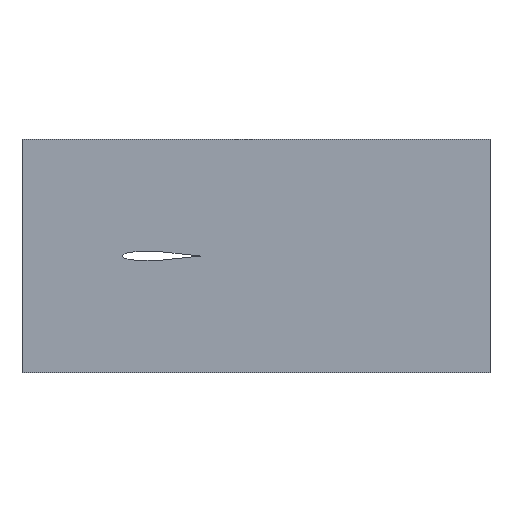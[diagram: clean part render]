
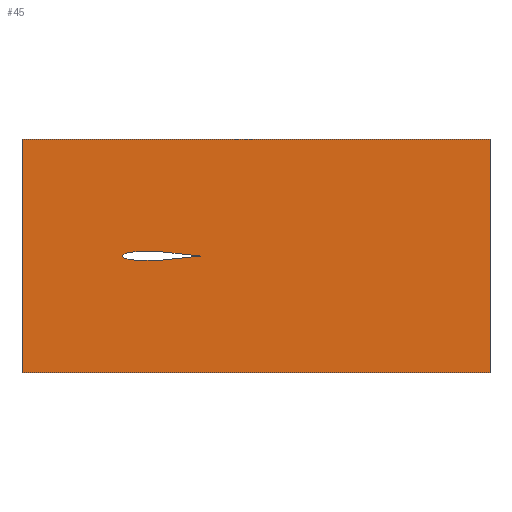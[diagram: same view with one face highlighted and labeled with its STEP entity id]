
A CAD part, top view. The second image highlights one B-rep face of the part: STEP entity #45.
In plain terms, the highlighted planar face has unit normal (0, 0, 1).
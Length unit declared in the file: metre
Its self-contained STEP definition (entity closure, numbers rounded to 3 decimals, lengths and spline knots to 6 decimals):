
#12=LINE('',#160,#16);
#13=LINE('',#163,#17);
#14=LINE('',#165,#18);
#15=LINE('',#167,#19);
#16=VECTOR('',#64,1.);
#17=VECTOR('',#65,1.);
#18=VECTOR('',#66,1.);
#19=VECTOR('',#67,1.);
#20=ORIENTED_EDGE('',*,*,#26,.F.);
#21=ORIENTED_EDGE('',*,*,#27,.F.);
#22=ORIENTED_EDGE('',*,*,#28,.F.);
#23=ORIENTED_EDGE('',*,*,#29,.T.);
#24=ORIENTED_EDGE('',*,*,#30,.T.);
#25=ORIENTED_EDGE('',*,*,#31,.F.);
#26=EDGE_CURVE('',#32,#33,#38,.T.);
#27=EDGE_CURVE('',#33,#32,#39,.T.);
#28=EDGE_CURVE('',#34,#35,#12,.F.);
#29=EDGE_CURVE('',#34,#36,#13,.T.);
#30=EDGE_CURVE('',#36,#37,#14,.T.);
#31=EDGE_CURVE('',#35,#37,#15,.F.);
#32=VERTEX_POINT('',#114);
#33=VERTEX_POINT('',#115);
#34=VERTEX_POINT('',#161);
#35=VERTEX_POINT('',#162);
#36=VERTEX_POINT('',#164);
#37=VERTEX_POINT('',#166);
#38=B_SPLINE_CURVE_WITH_KNOTS('',3,(#70,#71,#72,#73,#74,#75,#76,#77,#78,
#79,#80,#81,#82,#83,#84,#85,#86,#87,#88,#89,#90,#91,#92,#93,#94,#95,#96,
#97,#98,#99,#100,#101,#102,#103,#104,#105,#106,#107,#108,#109,#110,#111,
#112,#113),.UNSPECIFIED.,.F.,.F.,(4,1,1,1,1,1,1,1,1,1,1,1,1,1,1,1,1,1,1,
1,1,1,1,1,1,1,1,1,1,1,1,1,1,1,1,1,1,1,1,1,1,4),(0.,0.001624,
0.003249,0.004873,0.006498,0.009746,
0.012995,0.016244,0.019493,0.02599,
0.032488,0.038985,0.045483,0.05198,
0.058478,0.064975,0.071473,0.07797,
0.081219,0.084468,0.087716,0.090965,
0.092589,0.094214,0.095838,0.097463,
0.099087,0.099899,0.100711,0.101523,
0.10193,0.102336,0.102742,0.103148,
0.103351,0.103554,0.103655,0.103757,
0.103859,0.103909,0.103935,0.10396),
 .UNSPECIFIED.);
#39=B_SPLINE_CURVE_WITH_KNOTS('',3,(#116,#117,#118,#119,#120,#121,#122,
#123,#124,#125,#126,#127,#128,#129,#130,#131,#132,#133,#134,#135,#136,#137,
#138,#139,#140,#141,#142,#143,#144,#145,#146,#147,#148,#149,#150,#151,#152,
#153,#154,#155,#156,#157,#158,#159),.UNSPECIFIED.,.F.,.F.,(4,1,1,1,1,1,
1,1,1,1,1,1,1,1,1,1,1,1,1,1,1,1,1,1,1,1,1,1,1,1,1,1,1,1,1,1,1,1,1,1,1,4),
(0.,0.000025,0.00005,0.000101,0.000201,
0.000302,0.000403,0.000604,0.000805,
0.001208,0.00161,0.002013,0.002415,
0.003221,0.004026,0.004831,0.006441,
0.008052,0.009662,0.011272,0.012883,
0.016103,0.019324,0.022544,0.025765,
0.032206,0.038648,0.045089,0.05153,
0.057971,0.064413,0.070854,0.077295,
0.083736,0.086957,0.090178,0.093398,
0.096619,0.098229,0.099839,0.10145,
0.10306),.UNSPECIFIED.);
#40=EDGE_LOOP('',(#20,#21));
#41=EDGE_LOOP('',(#22,#23,#24,#25));
#42=FACE_BOUND('',#40,.T.);
#43=FACE_BOUND('',#41,.T.);
#44=PLANE('',#59);
#45=ADVANCED_FACE('',(#42,#43),#44,.T.);
#59=AXIS2_PLACEMENT_3D('',#69,#62,#63);
#62=DIRECTION('',(0.,0.,1.));
#63=DIRECTION('',(1.,0.,0.));
#64=DIRECTION('',(-1.,0.,0.));
#65=DIRECTION('',(0.,-1.,0.));
#66=DIRECTION('',(1.,0.,0.));
#67=DIRECTION('',(0.,1.,0.));
#69=CARTESIAN_POINT('',(0.125,0.,0.005));
#70=CARTESIAN_POINT('',(-0.046066,0.,0.005));
#71=CARTESIAN_POINT('',(-0.046066,-0.000549,0.005));
#72=CARTESIAN_POINT('',(-0.045451,-0.001525,0.005));
#73=CARTESIAN_POINT('',(-0.044077,-0.002398,0.005));
#74=CARTESIAN_POINT('',(-0.042617,-0.003051,0.005));
#75=CARTESIAN_POINT('',(-0.040574,-0.003737,0.005));
#76=CARTESIAN_POINT('',(-0.037989,-0.004359,0.005));
#77=CARTESIAN_POINT('',(-0.034848,-0.004901,0.005));
#78=CARTESIAN_POINT('',(-0.031684,-0.005298,0.005));
#79=CARTESIAN_POINT('',(-0.027437,-0.005685,0.005));
#80=CARTESIAN_POINT('',(-0.022122,-0.005951,0.005));
#81=CARTESIAN_POINT('',(-0.01576,-0.00603,0.005));
#82=CARTESIAN_POINT('',(-0.009402,-0.005931,0.005));
#83=CARTESIAN_POINT('',(-0.00305,-0.005692,0.005));
#84=CARTESIAN_POINT('',(0.003297,-0.005341,0.005));
#85=CARTESIAN_POINT('',(0.009641,-0.004901,0.005));
#86=CARTESIAN_POINT('',(0.015983,-0.004384,0.005));
#87=CARTESIAN_POINT('',(0.022322,-0.003801,0.005));
#88=CARTESIAN_POINT('',(0.027602,-0.003266,0.005));
#89=CARTESIAN_POINT('',(0.031823,-0.00281,0.005));
#90=CARTESIAN_POINT('',(0.034988,-0.002454,0.005));
#91=CARTESIAN_POINT('',(0.03815,-0.002083,0.005));
#92=CARTESIAN_POINT('',(0.040784,-0.001763,0.005));
#93=CARTESIAN_POINT('',(0.042891,-0.001499,0.005));
#94=CARTESIAN_POINT('',(0.04447,-0.001297,0.005));
#95=CARTESIAN_POINT('',(0.046049,-0.001091,0.005));
#96=CARTESIAN_POINT('',(0.047627,-0.000881,0.005));
#97=CARTESIAN_POINT('',(0.048942,-0.000703,0.005));
#98=CARTESIAN_POINT('',(0.049994,-0.000559,0.005));
#99=CARTESIAN_POINT('',(0.050782,-0.000449,0.005));
#100=CARTESIAN_POINT('',(0.051439,-0.000357,0.005));
#101=CARTESIAN_POINT('',(0.051965,-0.000283,0.005));
#102=CARTESIAN_POINT('',(0.052359,-0.000227,0.005));
#103=CARTESIAN_POINT('',(0.052753,-0.00017,0.005));
#104=CARTESIAN_POINT('',(0.053081,-0.000124,0.005));
#105=CARTESIAN_POINT('',(0.053344,-0.000086,0.005));
#106=CARTESIAN_POINT('',(0.053508,-0.000061,0.005));
#107=CARTESIAN_POINT('',(0.053639,-0.000041,0.005));
#108=CARTESIAN_POINT('',(0.053738,-0.000028,0.005));
#109=CARTESIAN_POINT('',(0.053818,-0.000015,0.005));
#110=CARTESIAN_POINT('',(0.053879,-0.00001,0.005));
#111=CARTESIAN_POINT('',(0.053907,-0.000002,0.005));
#112=CARTESIAN_POINT('',(0.053934,-0.000008,0.005));
#113=CARTESIAN_POINT('',(0.053934,0.,0.005));
#114=CARTESIAN_POINT('',(-0.046066,0.,0.005));
#115=CARTESIAN_POINT('',(0.053934,0.,0.005));
#116=CARTESIAN_POINT('',(0.053934,0.,0.005));
#117=CARTESIAN_POINT('',(0.053934,0.000009,0.005));
#118=CARTESIAN_POINT('',(0.053907,0.000002,0.005));
#119=CARTESIAN_POINT('',(0.053879,0.00001,0.005));
#120=CARTESIAN_POINT('',(0.053818,0.000015,0.005));
#121=CARTESIAN_POINT('',(0.053738,0.000028,0.005));
#122=CARTESIAN_POINT('',(0.053639,0.000041,0.005));
#123=CARTESIAN_POINT('',(0.053507,0.000061,0.005));
#124=CARTESIAN_POINT('',(0.053343,0.000086,0.005));
#125=CARTESIAN_POINT('',(0.05308,0.000124,0.005));
#126=CARTESIAN_POINT('',(0.052752,0.00017,0.005));
#127=CARTESIAN_POINT('',(0.052357,0.000227,0.005));
#128=CARTESIAN_POINT('',(0.051963,0.000283,0.005));
#129=CARTESIAN_POINT('',(0.051437,0.000357,0.005));
#130=CARTESIAN_POINT('',(0.05078,0.00045,0.005));
#131=CARTESIAN_POINT('',(0.049991,0.000559,0.005));
#132=CARTESIAN_POINT('',(0.048938,0.000704,0.005));
#133=CARTESIAN_POINT('',(0.047623,0.000882,0.005));
#134=CARTESIAN_POINT('',(0.046043,0.001092,0.005));
#135=CARTESIAN_POINT('',(0.044463,0.001298,0.005));
#136=CARTESIAN_POINT('',(0.042883,0.0015,0.005));
#137=CARTESIAN_POINT('',(0.040775,0.001764,0.005));
#138=CARTESIAN_POINT('',(0.03814,0.002085,0.005));
#139=CARTESIAN_POINT('',(0.034975,0.002455,0.005));
#140=CARTESIAN_POINT('',(0.031809,0.002812,0.005));
#141=CARTESIAN_POINT('',(0.027585,0.003268,0.005));
#142=CARTESIAN_POINT('',(0.022301,0.003803,0.005));
#143=CARTESIAN_POINT('',(0.015957,0.004386,0.005));
#144=CARTESIAN_POINT('',(0.009607,0.004903,0.005));
#145=CARTESIAN_POINT('',(0.003253,0.005344,0.005));
#146=CARTESIAN_POINT('',(-0.003108,0.005694,0.005));
#147=CARTESIAN_POINT('',(-0.009479,0.005933,0.005));
#148=CARTESIAN_POINT('',(-0.015853,0.006031,0.005));
#149=CARTESIAN_POINT('',(-0.022229,0.005948,0.005));
#150=CARTESIAN_POINT('',(-0.027535,0.005678,0.005));
#151=CARTESIAN_POINT('',(-0.031769,0.005289,0.005));
#152=CARTESIAN_POINT('',(-0.034932,0.004888,0.005));
#153=CARTESIAN_POINT('',(-0.038074,0.004342,0.005));
#154=CARTESIAN_POINT('',(-0.040658,0.003713,0.005));
#155=CARTESIAN_POINT('',(-0.042674,0.003029,0.005));
#156=CARTESIAN_POINT('',(-0.044126,0.002372,0.005));
#157=CARTESIAN_POINT('',(-0.045473,0.001501,0.005));
#158=CARTESIAN_POINT('',(-0.046066,0.00054,0.005));
#159=CARTESIAN_POINT('',(-0.046066,0.,0.005));
#160=CARTESIAN_POINT('',(0.125,0.15,0.005));
#161=CARTESIAN_POINT('',(-0.175,0.15,0.005));
#162=CARTESIAN_POINT('',(0.425,0.15,0.005));
#163=CARTESIAN_POINT('',(-0.175,0.,0.005));
#164=CARTESIAN_POINT('',(-0.175,-0.15,0.005));
#165=CARTESIAN_POINT('',(0.125,-0.15,0.005));
#166=CARTESIAN_POINT('',(0.425,-0.15,0.005));
#167=CARTESIAN_POINT('',(0.425,0.,0.005));
